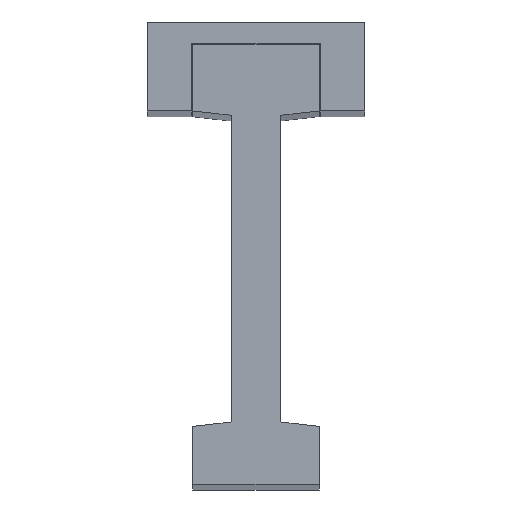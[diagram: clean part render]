
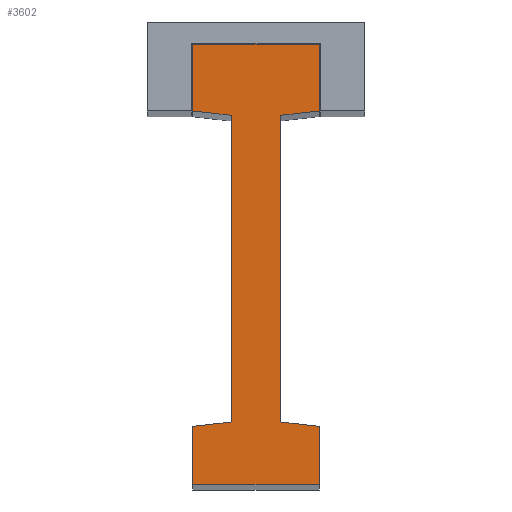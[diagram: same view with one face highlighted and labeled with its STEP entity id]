
A CAD part, top view. The second image highlights one B-rep face of the part: STEP entity #3602.
In plain terms, the highlighted planar face has unit normal (0, 0, 1).
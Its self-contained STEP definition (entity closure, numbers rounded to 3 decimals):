
#305 = DIRECTION ( 'NONE',  ( 0., -1., 0. ) ) ;
#322 = ORIENTED_EDGE ( 'NONE', *, *, #7649, .T. ) ;
#369 = VERTEX_POINT ( 'NONE', #3392 ) ;
#394 = DIRECTION ( 'NONE',  ( 0., 1., 0. ) ) ;
#668 = VECTOR ( 'NONE', #1136, 1000. ) ;
#722 = EDGE_CURVE ( 'NONE', #5061, #7772, #3680, .T. ) ;
#736 = VERTEX_POINT ( 'NONE', #9783 ) ;
#832 = EDGE_LOOP ( 'NONE', ( #8266, #2513, #2854, #6826, #2343, #322, #7600, #5613, #7807, #9708, #8596, #4977 ) ) ;
#933 = VECTOR ( 'NONE', #3623, 1000. ) ;
#1051 = CARTESIAN_POINT ( 'NONE',  ( 86.45, 301.204, 1025.517 ) ) ;
#1136 = DIRECTION ( 'NONE',  ( 0.993, 0.115, 0. ) ) ;
#1140 = DIRECTION ( 'NONE',  ( 0., 1., 0. ) ) ;
#1220 = VECTOR ( 'NONE', #5843, 1000. ) ;
#1239 = CARTESIAN_POINT ( 'NONE',  ( 66.6, 300.204, 1025.517 ) ) ;
#1273 = DIRECTION ( 'NONE',  ( -0.993, 0.115, 0. ) ) ;
#1584 = EDGE_CURVE ( 'NONE', #369, #5575, #9687, .T. ) ;
#1728 = EDGE_CURVE ( 'NONE', #8366, #6026, #10040, .T. ) ;
#2343 = ORIENTED_EDGE ( 'NONE', *, *, #6908, .T. ) ;
#2513 = ORIENTED_EDGE ( 'NONE', *, *, #8443, .F. ) ;
#2588 = CARTESIAN_POINT ( 'NONE',  ( 57.95, 230.204, 1025.517 ) ) ;
#2620 = VECTOR ( 'NONE', #4193, 1000. ) ;
#2722 = CARTESIAN_POINT ( 'NONE',  ( 77.8, 231.204, 1025.517 ) ) ;
#2854 = ORIENTED_EDGE ( 'NONE', *, *, #5534, .T. ) ;
#2876 = EDGE_CURVE ( 'NONE', #7772, #3937, #3064, .T. ) ;
#2906 = CARTESIAN_POINT ( 'NONE',  ( 66.6, 231.204, 1025.517 ) ) ;
#2914 = CARTESIAN_POINT ( 'NONE',  ( 66.6, 231.204, 1025.517 ) ) ;
#3064 = LINE ( 'NONE', #4104, #2620 ) ;
#3392 = CARTESIAN_POINT ( 'NONE',  ( 77.8, 231.204, 1025.517 ) ) ;
#3602 = ADVANCED_FACE ( 'NONE', ( #5792 ), #4918, .T. ) ;
#3623 = DIRECTION ( 'NONE',  ( -1., 0., 0. ) ) ;
#3680 = LINE ( 'NONE', #8350, #933 ) ;
#3791 = VERTEX_POINT ( 'NONE', #4646 ) ;
#3919 = VECTOR ( 'NONE', #8327, 1000. ) ;
#3937 = VERTEX_POINT ( 'NONE', #7598 ) ;
#4104 = CARTESIAN_POINT ( 'NONE',  ( 57.95, 316.204, 1025.517 ) ) ;
#4193 = DIRECTION ( 'NONE',  ( 0., -1., 0. ) ) ;
#4472 = LINE ( 'NONE', #6812, #5560 ) ;
#4607 = VECTOR ( 'NONE', #394, 1000. ) ;
#4611 = LINE ( 'NONE', #8549, #3919 ) ;
#4646 = CARTESIAN_POINT ( 'NONE',  ( 86.45, 230.204, 1025.517 ) ) ;
#4662 = EDGE_CURVE ( 'NONE', #736, #5061, #4472, .T. ) ;
#4846 = VERTEX_POINT ( 'NONE', #9297 ) ;
#4848 = CARTESIAN_POINT ( 'NONE',  ( 57.95, 316.204, 1025.517 ) ) ;
#4918 = PLANE ( 'NONE',  #5424 ) ;
#4977 = ORIENTED_EDGE ( 'NONE', *, *, #722, .T. ) ;
#4989 = CARTESIAN_POINT ( 'NONE',  ( 57.95, 217.204, 1025.517 ) ) ;
#5061 = VERTEX_POINT ( 'NONE', #9477 ) ;
#5106 = LINE ( 'NONE', #2588, #5546 ) ;
#5123 = CARTESIAN_POINT ( 'NONE',  ( 57.95, 217.204, 1025.517 ) ) ;
#5164 = LINE ( 'NONE', #6802, #7176 ) ;
#5424 = AXIS2_PLACEMENT_3D ( 'NONE', #6539, #8026, #8069 ) ;
#5530 = LINE ( 'NONE', #6242, #6515 ) ;
#5534 = EDGE_CURVE ( 'NONE', #5684, #8366, #4611, .T. ) ;
#5546 = VECTOR ( 'NONE', #305, 1000. ) ;
#5560 = VECTOR ( 'NONE', #9229, 1000. ) ;
#5575 = VERTEX_POINT ( 'NONE', #6955 ) ;
#5613 = ORIENTED_EDGE ( 'NONE', *, *, #7885, .T. ) ;
#5684 = VERTEX_POINT ( 'NONE', #1239 ) ;
#5792 = FACE_OUTER_BOUND ( 'NONE', #832, .T. ) ;
#5843 = DIRECTION ( 'NONE',  ( 1., 0., 0. ) ) ;
#6011 = LINE ( 'NONE', #6832, #7910 ) ;
#6026 = VERTEX_POINT ( 'NONE', #8007 ) ;
#6242 = CARTESIAN_POINT ( 'NONE',  ( 57.95, 301.204, 1025.517 ) ) ;
#6441 = LINE ( 'NONE', #1051, #668 ) ;
#6515 = VECTOR ( 'NONE', #7674, 1000. ) ;
#6539 = CARTESIAN_POINT ( 'NONE',  ( 57.95, 217.204, 1025.517 ) ) ;
#6562 = VECTOR ( 'NONE', #6883, 1000. ) ;
#6802 = CARTESIAN_POINT ( 'NONE',  ( 86.45, 217.204, 1025.517 ) ) ;
#6812 = CARTESIAN_POINT ( 'NONE',  ( 86.45, 301.204, 1025.517 ) ) ;
#6826 = ORIENTED_EDGE ( 'NONE', *, *, #1728, .T. ) ;
#6832 = CARTESIAN_POINT ( 'NONE',  ( 86.45, 230.204, 1025.517 ) ) ;
#6883 = DIRECTION ( 'NONE',  ( -0.993, -0.115, 0. ) ) ;
#6908 = EDGE_CURVE ( 'NONE', #6026, #7247, #5106, .T. ) ;
#6955 = CARTESIAN_POINT ( 'NONE',  ( 77.8, 300.204, 1025.517 ) ) ;
#7176 = VECTOR ( 'NONE', #1140, 1000. ) ;
#7247 = VERTEX_POINT ( 'NONE', #4989 ) ;
#7363 = LINE ( 'NONE', #5123, #1220 ) ;
#7598 = CARTESIAN_POINT ( 'NONE',  ( 57.95, 301.204, 1025.517 ) ) ;
#7600 = ORIENTED_EDGE ( 'NONE', *, *, #8883, .T. ) ;
#7649 = EDGE_CURVE ( 'NONE', #7247, #4846, #7363, .T. ) ;
#7674 = DIRECTION ( 'NONE',  ( -0.993, 0.115, 0. ) ) ;
#7772 = VERTEX_POINT ( 'NONE', #4848 ) ;
#7807 = ORIENTED_EDGE ( 'NONE', *, *, #1584, .T. ) ;
#7885 = EDGE_CURVE ( 'NONE', #3791, #369, #6011, .T. ) ;
#7910 = VECTOR ( 'NONE', #1273, 1000. ) ;
#8007 = CARTESIAN_POINT ( 'NONE',  ( 57.95, 230.204, 1025.517 ) ) ;
#8026 = DIRECTION ( 'NONE',  ( 0., 0., 1. ) ) ;
#8069 = DIRECTION ( 'NONE',  ( 1., 0., 0. ) ) ;
#8266 = ORIENTED_EDGE ( 'NONE', *, *, #2876, .T. ) ;
#8327 = DIRECTION ( 'NONE',  ( 0., -1., 0. ) ) ;
#8350 = CARTESIAN_POINT ( 'NONE',  ( 86.45, 316.204, 1025.517 ) ) ;
#8366 = VERTEX_POINT ( 'NONE', #2906 ) ;
#8443 = EDGE_CURVE ( 'NONE', #5684, #3937, #5530, .T. ) ;
#8549 = CARTESIAN_POINT ( 'NONE',  ( 66.6, 298.704, 1025.517 ) ) ;
#8556 = EDGE_CURVE ( 'NONE', #5575, #736, #6441, .T. ) ;
#8596 = ORIENTED_EDGE ( 'NONE', *, *, #4662, .T. ) ;
#8883 = EDGE_CURVE ( 'NONE', #4846, #3791, #5164, .T. ) ;
#9229 = DIRECTION ( 'NONE',  ( 0., 1., 0. ) ) ;
#9297 = CARTESIAN_POINT ( 'NONE',  ( 86.45, 217.204, 1025.517 ) ) ;
#9477 = CARTESIAN_POINT ( 'NONE',  ( 86.45, 316.204, 1025.517 ) ) ;
#9687 = LINE ( 'NONE', #2722, #4607 ) ;
#9708 = ORIENTED_EDGE ( 'NONE', *, *, #8556, .T. ) ;
#9783 = CARTESIAN_POINT ( 'NONE',  ( 86.45, 301.204, 1025.517 ) ) ;
#10040 = LINE ( 'NONE', #2914, #6562 ) ;
